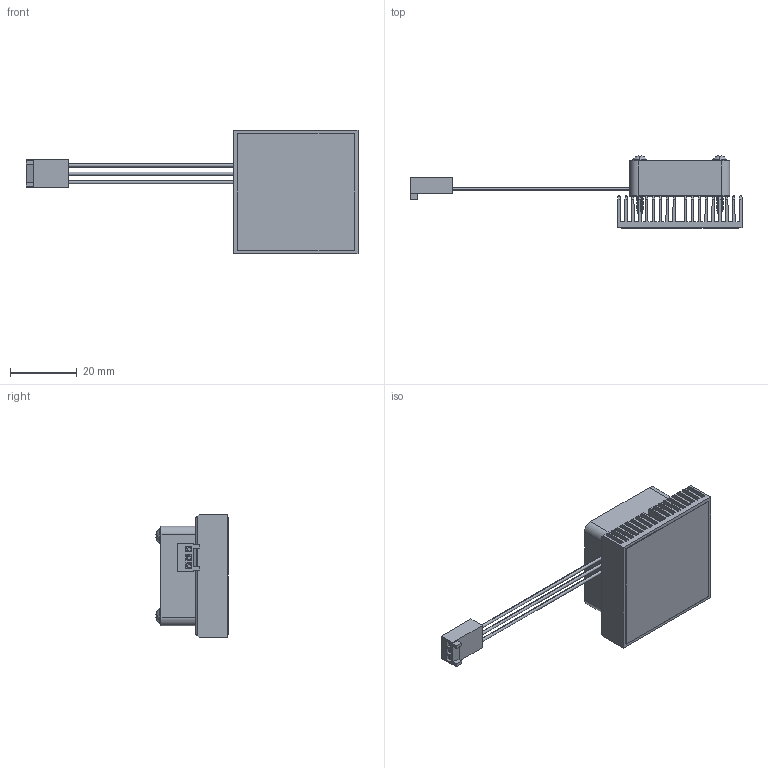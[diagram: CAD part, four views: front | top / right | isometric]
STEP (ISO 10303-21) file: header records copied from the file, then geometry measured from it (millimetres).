
FILE_DESCRIPTION (( 'STEP AP214' ), '1' );
FILE_NAME ('FJ37.5-1.7.STEP', '2023-05-09T18:41:23', ( '' ), ( '' ), 'SwSTEP 2.0', 'SolidWorks 2020', '' );
FILE_SCHEMA (( 'AUTOMOTIVE_DESIGN' ));
Length unit declared in the file: millimetre
Products named in the file (1): FJ37.5-1.7
Bounding box: 99.69 x 21.62 x 37 mm (x, y, z)
Volume: 11336.5 mm3; surface area: 22492.2 mm2
Topology: 7 solids, 7 shells, 864 faces, 2494 edges, 1658 vertices
Faces by surface type: cylinder 390, plane 296, bspline 122, cone 40, sphere 8, torus 8
Entity records: 63504 total; most frequent: CARTESIAN_POINT 34053, ORIENTED_EDGE 4988, DIRECTION 3340, EDGE_CURVE 2494, VERTEX_POINT 1658, LINE 1190, VECTOR 1190, AXIS2_PLACEMENT_3D 1075
